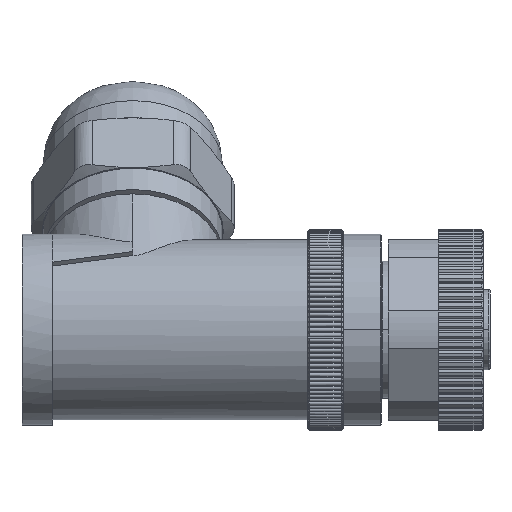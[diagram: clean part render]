
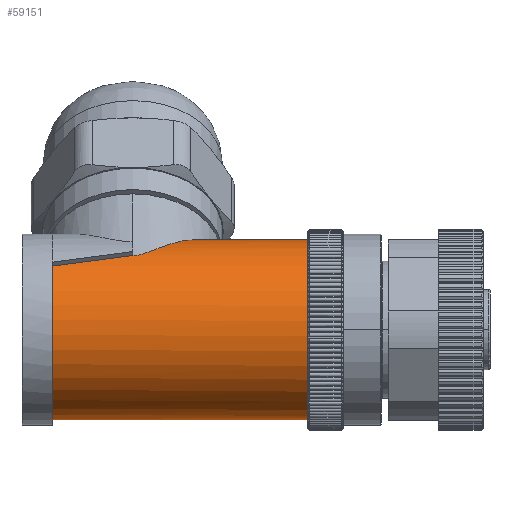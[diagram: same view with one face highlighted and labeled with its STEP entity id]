
A CAD part, left-side view. The second image highlights one B-rep face of the part: STEP entity #59151.
In plain terms, the highlighted cylindrical face has radius 8.95 mm (diameter 17.9 mm), a partial arc.
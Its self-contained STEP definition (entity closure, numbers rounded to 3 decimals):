
#9001=CARTESIAN_POINT('',(0.,5.068,-8.95));
#9002=CARTESIAN_POINT('',(-0.399,5.073,-8.95));
#9003=CARTESIAN_POINT('',(-1.201,5.084,
-8.896));
#9004=CARTESIAN_POINT('',(-1.995,5.095,
-8.734));
#9005=CARTESIAN_POINT('',(-2.386,5.1,-8.626));
#9007=CARTESIAN_POINT('',(0.,5.1,0.));
#9008=DIRECTION('',(0.,-1.,0.));
#9009=DIRECTION('',(-0.267,0.,-0.964));
#9010=AXIS2_PLACEMENT_3D('',#9007,#9008,#9009);
#9012=DIRECTION('',(0.,-1.,0.));
#9013=VECTOR('',#9012,25.4);
#9014=CARTESIAN_POINT('',(0.,30.5,-8.95));
#9015=LINE('',#9014,#9013);
#9016=CARTESIAN_POINT('',(0.,30.5,0.));
#9017=DIRECTION('',(0.,1.,0.));
#9018=DIRECTION('',(0.,0.,-1.));
#9019=AXIS2_PLACEMENT_3D('',#9016,#9017,#9018);
#9021=CARTESIAN_POINT('',(-5.069,22.5,7.376));
#9022=CARTESIAN_POINT('',(-5.524,25.166,7.063));
#9023=CARTESIAN_POINT('',(-5.944,27.832,6.713));
#9024=CARTESIAN_POINT('',(-6.329,30.5,6.329));
#9026=CARTESIAN_POINT('',(-5.069,22.5,7.376));
#9027=CARTESIAN_POINT('',(-5.069,22.31,7.376));
#9028=CARTESIAN_POINT('',(-5.012,21.924,7.416));
#9029=CARTESIAN_POINT('',(-4.762,21.322,7.581));
#9030=CARTESIAN_POINT('',(-4.398,20.717,7.8));
#9031=CARTESIAN_POINT('',(-3.939,20.091,8.043));
#9032=CARTESIAN_POINT('',(-3.387,19.434,8.293));
#9033=CARTESIAN_POINT('',(-2.737,18.738,8.532));
#9034=CARTESIAN_POINT('',(-1.974,17.997,8.743));
#9035=CARTESIAN_POINT('',(-1.081,17.214,8.902));
#9036=CARTESIAN_POINT('',(-0.379,16.662,
8.95));
#9037=CARTESIAN_POINT('',(0.,16.385,8.95));
#9039=DIRECTION('',(0.,-1.,0.));
#9040=VECTOR('',#9039,11.285);
#9041=CARTESIAN_POINT('',(0.,16.385,8.95));
#9042=LINE('',#9041,#9040);
#9043=CARTESIAN_POINT('',(0.,5.1,0.));
#9044=DIRECTION('',(0.,-1.,0.));
#9045=DIRECTION('',(0.,0.,1.));
#9046=AXIS2_PLACEMENT_3D('',#9043,#9044,#9045);
#9048=CARTESIAN_POINT('',(-2.386,5.1,8.626));
#9049=CARTESIAN_POINT('',(-3.033,5.091,8.447));
#9050=CARTESIAN_POINT('',(-4.278,5.073,7.947));
#9051=CARTESIAN_POINT('',(-5.922,5.047,6.805));
#9052=CARTESIAN_POINT('',(-7.237,5.021,5.386));
#9053=CARTESIAN_POINT('',(-8.253,4.994,3.655));
#9054=CARTESIAN_POINT('',(-8.858,4.968,1.725));
#9055=CARTESIAN_POINT('',(-9.016,4.941,
-0.254));
#9056=CARTESIAN_POINT('',(-8.758,4.916,
-2.16));
#9057=CARTESIAN_POINT('',(-8.068,4.889,
-4.047));
#9058=CARTESIAN_POINT('',(-6.967,4.863,
-5.733));
#9059=CARTESIAN_POINT('',(-5.568,4.837,
-7.096));
#9060=CARTESIAN_POINT('',(-3.902,4.811,
-8.137));
#9061=CARTESIAN_POINT('',(-1.985,4.784,
-8.805));
#9062=CARTESIAN_POINT('',(-0.662,4.766,-8.95));
#9063=CARTESIAN_POINT('',(0.,4.757,-8.95));
#9065=DIRECTION('',(0.,-1.,0.));
#9066=VECTOR('',#9065,0.311);
#9067=CARTESIAN_POINT('',(0.,5.068,-8.95));
#9068=LINE('',#9067,#9066);
#9663=CARTESIAN_POINT('',(0.,5.068,-8.95));
#9665=CARTESIAN_POINT('',(0.,4.757,-8.95));
#9764=CARTESIAN_POINT('',(0.,16.385,8.95));
#44079=VERTEX_POINT('',#9764);
#44086=CARTESIAN_POINT('',(-6.329,30.5,6.329));
#44087=VERTEX_POINT('',#44086);
#44093=CARTESIAN_POINT('',(-5.069,22.5,7.376));
#44095=VERTEX_POINT('',#44093);
#44100=CARTESIAN_POINT('',(0.,30.5,-8.95));
#44101=VERTEX_POINT('',#44100);
#48506=VERTEX_POINT('',#9663);
#48507=VERTEX_POINT('',#9665);
#48509=CARTESIAN_POINT('',(0.,5.1,-8.95));
#48510=CARTESIAN_POINT('',(0.,5.1,8.95));
#48511=VERTEX_POINT('',#48509);
#48512=VERTEX_POINT('',#48510);
#48513=VERTEX_POINT('',#9005);
#48515=VERTEX_POINT('',#9048);
#59127=CARTESIAN_POINT('',(0.,33.5,0.));
#59128=DIRECTION('',(0.,-1.,0.));
#59129=DIRECTION('',(0.,0.,-1.));
#59130=AXIS2_PLACEMENT_3D('',#59127,#59128,#59129);
#59131=CYLINDRICAL_SURFACE('',#59130,8.95);
#59133=ORIENTED_EDGE('',*,*,#59132,.T.);
#59135=ORIENTED_EDGE('',*,*,#59134,.T.);
#59137=ORIENTED_EDGE('',*,*,#59136,.F.);
#59138=ORIENTED_EDGE('',*,*,#59115,.T.);
#59139=ORIENTED_EDGE('',*,*,#59089,.F.);
#59140=ORIENTED_EDGE('',*,*,#59048,.T.);
#59142=ORIENTED_EDGE('',*,*,#59141,.T.);
#59144=ORIENTED_EDGE('',*,*,#59143,.T.);
#59146=ORIENTED_EDGE('',*,*,#59145,.T.);
#59148=ORIENTED_EDGE('',*,*,#59147,.F.);
#59149=EDGE_LOOP('',(#59133,#59135,#59137,#59138,#59139,#59140,#59142,#59144,
#59146,#59148));
#59150=FACE_OUTER_BOUND('',#59149,.F.);
#59151=ADVANCED_FACE('',(#59150),#59131,.T.);
#9006=B_SPLINE_CURVE_WITH_KNOTS('',3,(#9001,#9002,#9003,#9004,#9005),
.UNSPECIFIED.,.F.,.F.,(4,1,4),(0.,0.5,1.),.UNSPECIFIED.);
#9011=CIRCLE('',#9010,8.95);
#9020=CIRCLE('',#9019,8.95);
#9025=B_SPLINE_CURVE_WITH_KNOTS('',3,(#9021,#9022,#9023,#9024),.UNSPECIFIED.,
.F.,.F.,(4,4),(0.,1.),.UNSPECIFIED.);
#9038=B_SPLINE_CURVE_WITH_KNOTS('',3,(#9026,#9027,#9028,#9029,#9030,#9031,#9032,
#9033,#9034,#9035,#9036,#9037),.UNSPECIFIED.,.F.,.F.,(4,1,1,1,1,1,1,1,1,4),
(0.,0.111,0.222,0.333,0.444,
0.556,0.667,0.778,0.889,1.),
.UNSPECIFIED.);
#9047=CIRCLE('',#9046,8.95);
#9064=B_SPLINE_CURVE_WITH_KNOTS('',3,(#9048,#9049,#9050,#9051,#9052,#9053,#9054,
#9055,#9056,#9057,#9058,#9059,#9060,#9061,#9062,#9063),.UNSPECIFIED.,.F.,.F.,(4,
1,1,1,1,1,1,1,1,1,1,1,1,4),(0.,0.077,0.154,
0.231,0.308,0.385,0.462,
0.538,0.615,0.692,0.769,
0.846,0.923,1.),.UNSPECIFIED.);
#59048=EDGE_CURVE('',#44095,#44079,#9038,.T.);
#59089=EDGE_CURVE('',#44095,#44087,#9025,.T.);
#59115=EDGE_CURVE('',#44101,#44087,#9020,.T.);
#59132=EDGE_CURVE('',#48506,#48513,#9006,.T.);
#59134=EDGE_CURVE('',#48513,#48511,#9011,.T.);
#59136=EDGE_CURVE('',#44101,#48511,#9015,.T.);
#59141=EDGE_CURVE('',#44079,#48512,#9042,.T.);
#59143=EDGE_CURVE('',#48512,#48515,#9047,.T.);
#59145=EDGE_CURVE('',#48515,#48507,#9064,.T.);
#59147=EDGE_CURVE('',#48506,#48507,#9068,.T.);
